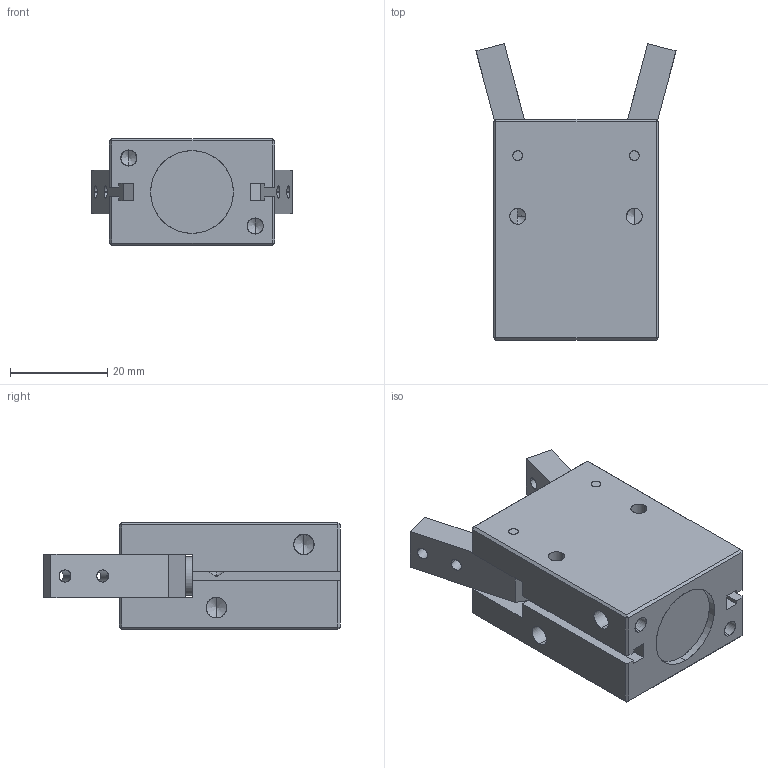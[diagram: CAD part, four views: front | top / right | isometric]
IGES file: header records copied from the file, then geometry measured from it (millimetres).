
Start section: SolidWorks IGES file using analytic representation for surfaces
Global section: file name: C:\Documents and Settings\SGA\Bureau\GDS.16\GDS.16-OPEN.IGS; native system: SolidWorks 2010; preprocessor: SolidWorks 2010; author: SGA; date: 111020.134712; units: millimetre
Bounding box: 41.18 x 61.06 x 22 mm (x, y, z)
Surface area: 12902 mm2 (no closed solid volume)
Topology: 0 solids, 0 shells, 580 faces, 6651 edges, 6636 vertices
Faces by surface type: bspline 517, revolution 63
